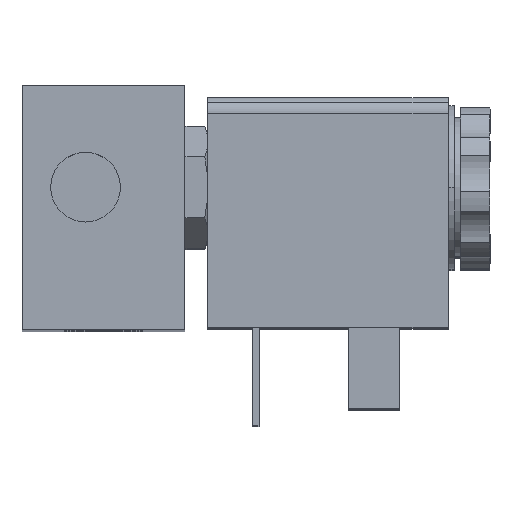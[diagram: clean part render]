
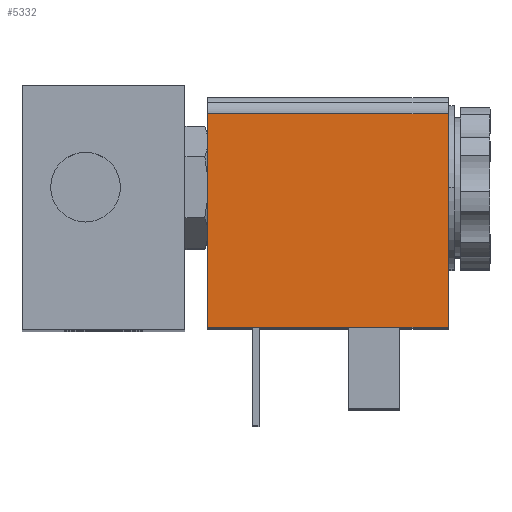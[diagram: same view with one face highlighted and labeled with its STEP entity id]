
A CAD part, top view. The second image highlights one B-rep face of the part: STEP entity #5332.
In plain terms, the highlighted planar face has unit normal (0, 0, 1) as drawn and (-1, 0, 0) by its records, which use the part's own axes.
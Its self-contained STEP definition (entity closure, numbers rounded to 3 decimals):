
#3404 = EDGE_CURVE ( 'NONE', #39750, #39749, #6493, .T. ) ;
#3410 = EDGE_CURVE ( 'NONE', #39750, #39751, #6501, .T. ) ;
#3411 = EDGE_CURVE ( 'NONE', #39749, #39752, #6503, .T. ) ;
#3412 = EDGE_CURVE ( 'NONE', #39752, #39751, #6505, .T. ) ;
#5261 = ORIENTED_EDGE ( 'NONE', *, *, #3410, .F. ) ;
#5262 = ORIENTED_EDGE ( 'NONE', *, *, #3404, .T. ) ;
#5263 = ORIENTED_EDGE ( 'NONE', *, *, #3411, .T. ) ;
#5264 = ORIENTED_EDGE ( 'NONE', *, *, #3412, .T. ) ;
#5332 = ADVANCED_FACE ( 'NONE', ( #11540 ), #15056, .T. ) ;
#6493 = LINE ( 'NONE', #10419, #6494 ) ;
#6494 = VECTOR ( 'NONE', #10420, 1000. ) ;
#6501 = LINE ( 'NONE', #10436, #6502 ) ;
#6502 = VECTOR ( 'NONE', #10437, 1000. ) ;
#6503 = LINE ( 'NONE', #10438, #6504 ) ;
#6504 = VECTOR ( 'NONE', #10439, 1000. ) ;
#6505 = LINE ( 'NONE', #10440, #6506 ) ;
#6506 = VECTOR ( 'NONE', #10441, 1000. ) ;
#10419 = CARTESIAN_POINT ( 'NONE',  ( -11., 11., 0. ) ) ;
#10420 = DIRECTION ( 'NONE',  ( 0., -1., 0. ) ) ;
#10436 = CARTESIAN_POINT ( 'NONE',  ( -11., 9., 0. ) ) ;
#10437 = DIRECTION ( 'NONE',  ( 0., 0., 1. ) ) ;
#10438 = CARTESIAN_POINT ( 'NONE',  ( -11., -17.2, 0. ) ) ;
#10439 = DIRECTION ( 'NONE',  ( 0., 0., 1. ) ) ;
#10440 = CARTESIAN_POINT ( 'NONE',  ( -11., 11., 29.5 ) ) ;
#10441 = DIRECTION ( 'NONE',  ( 0., 1., 0. ) ) ;
#11540 = FACE_OUTER_BOUND ( 'NONE', #38019, .T. ) ;
#13265 = AXIS2_PLACEMENT_3D ( 'NONE', #15055, #15065, #15066 ) ;
#15055 = CARTESIAN_POINT ( 'NONE',  ( -11., -17.2, 0. ) ) ;
#15056 = PLANE ( 'NONE',  #13265 ) ;
#15065 = DIRECTION ( 'NONE',  ( -1., 0., 0. ) ) ;
#15066 = DIRECTION ( 'NONE',  ( 0., 0.707, 0.707 ) ) ;
#31160 = CARTESIAN_POINT ( 'NONE',  ( -11., -17.2, 0. ) ) ;
#31161 = CARTESIAN_POINT ( 'NONE',  ( -11., 9., 0. ) ) ;
#31162 = CARTESIAN_POINT ( 'NONE',  ( -11., 9., 29.5 ) ) ;
#31163 = CARTESIAN_POINT ( 'NONE',  ( -11., -17.2, 29.5 ) ) ;
#38019 = EDGE_LOOP ( 'NONE', ( #5261, #5262, #5263, #5264 ) ) ;
#39749 = VERTEX_POINT ( 'NONE', #31160 ) ;
#39750 = VERTEX_POINT ( 'NONE', #31161 ) ;
#39751 = VERTEX_POINT ( 'NONE', #31162 ) ;
#39752 = VERTEX_POINT ( 'NONE', #31163 ) ;
